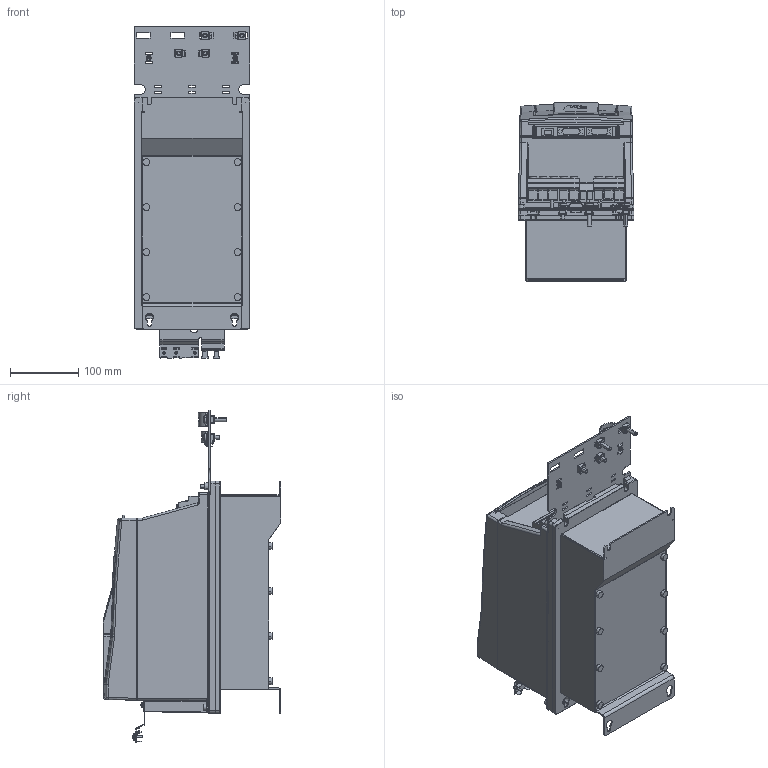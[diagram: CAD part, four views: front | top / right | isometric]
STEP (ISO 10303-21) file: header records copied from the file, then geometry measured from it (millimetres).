
FILE_DESCRIPTION (( 'STEP AP214' ), '1' );
FILE_NAME ('10036505_000.STEP', '2021-01-18T08:43:28', ( '' ), ( '' ), 'SwSTEP 2.0', 'SolidWorks 2019', '' );
FILE_SCHEMA (( 'AUTOMOTIVE_DESIGN' ));
Length unit declared in the file: millimetre
Products named in the file (14): 10040482_000_Kundenmodell; 10059765_000; 10059763_000; 10001531_000; 10036505_000; 10059764_000_Blindabdeckung (Kundenmodell); 10036504_000_Leistungsteil TR0 (Kundenmodell); 10060393_000; 10063309_000; 10047114_000_Kundenmodell; 10063222_000; 10035736_000_Kundenmodell; 10060392_000; 10061030_000_Kundenmodell
Assembly tree (14 placements, depth 4):
  10036505_000
    10036504_000_Leistungsteil TR0 (Kundenmodell)
      10060392_000
    10040482_000_Kundenmodell
      10060393_000
    10035736_000_Kundenmodell
      10059764_000_Blindabdeckung (Kundenmodell)
        10059765_000
      10059763_000
    10061030_000_Kundenmodell
      10063309_000
    10047114_000_Kundenmodell
      10063222_000
    10001531_000  x2
Bounding box: 170 x 260.9 x 486.8 mm (x, y, z)
Volume: 10647972.7 mm3; surface area: 697961 mm2
Topology: 20 solids, 27 shells, 3445 faces, 9004 edges, 5682 vertices
Faces by surface type: plane 1640, cylinder 1119, bspline 363, torus 130, cone 127, sphere 66
Entity records: 118644 total; most frequent: CARTESIAN_POINT 32417, ORIENTED_EDGE 17700, DIRECTION 16221, EDGE_CURVE 8850, VERTEX_POINT 5624, AXIS2_PLACEMENT_3D 5594, VECTOR 5033, LINE 5033
